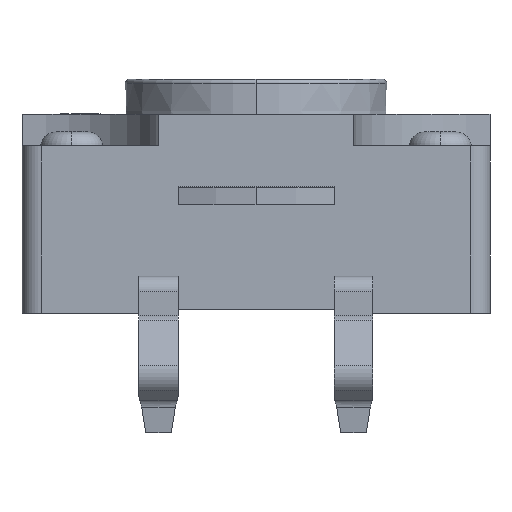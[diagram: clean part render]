
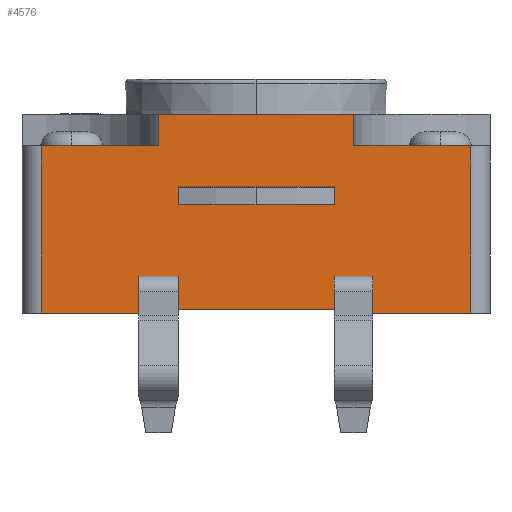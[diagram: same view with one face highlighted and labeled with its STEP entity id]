
A CAD part, left-side view. The second image highlights one B-rep face of the part: STEP entity #4576.
In plain terms, the highlighted planar face has unit normal (-1, 0, 0).
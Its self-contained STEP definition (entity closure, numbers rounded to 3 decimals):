
#578=DIRECTION('',(0.,1.,0.));
#579=VECTOR('',#578,3.);
#580=CARTESIAN_POINT('',(-75.489,40.27,-1.7));
#581=LINE('',#580,#579);
#582=DIRECTION('',(0.,-1.,0.));
#583=VECTOR('',#582,3.);
#584=CARTESIAN_POINT('',(-75.489,35.27,2.6));
#585=LINE('',#584,#583);
#586=DIRECTION('',(0.,-1.,0.));
#587=VECTOR('',#586,4.);
#588=CARTESIAN_POINT('',(-75.489,39.77,1.08));
#589=LINE('',#588,#587);
#590=DIRECTION('',(0.,0.,-1.));
#591=VECTOR('',#590,0.3);
#592=CARTESIAN_POINT('',(-75.489,34.77,
-0.75));
#593=LINE('',#592,#591);
#594=DIRECTION('',(0.,-1.,0.));
#595=VECTOR('',#594,1.);
#596=CARTESIAN_POINT('',(-75.489,35.77,
-0.75));
#597=LINE('',#596,#595);
#598=DIRECTION('',(0.,0.,1.));
#599=VECTOR('',#598,0.3);
#600=CARTESIAN_POINT('',(-75.489,35.77,-1.05));
#601=LINE('',#600,#599);
#602=DIRECTION('',(0.,-1.,0.));
#603=VECTOR('',#602,1.);
#604=CARTESIAN_POINT('',(-75.489,35.77,-1.05));
#605=LINE('',#604,#603);
#606=DIRECTION('',(0.,1.,0.));
#607=VECTOR('',#606,1.);
#608=CARTESIAN_POINT('',(-75.489,39.77,-1.05));
#609=LINE('',#608,#607);
#610=DIRECTION('',(0.,0.,-1.));
#611=VECTOR('',#610,0.3);
#612=CARTESIAN_POINT('',(-75.489,39.77,
-0.75));
#613=LINE('',#612,#611);
#614=DIRECTION('',(0.,1.,0.));
#615=VECTOR('',#614,1.);
#616=CARTESIAN_POINT('',(-75.489,39.77,
-0.75));
#617=LINE('',#616,#615);
#618=DIRECTION('',(0.,0.,-1.));
#619=VECTOR('',#618,0.3);
#620=CARTESIAN_POINT('',(-75.489,40.77,
-0.75));
#621=LINE('',#620,#619);
#626=DIRECTION('',(0.,0.,1.));
#627=VECTOR('',#626,3.25);
#628=CARTESIAN_POINT('',(-75.489,32.27,-1.7));
#629=LINE('',#628,#627);
#630=DIRECTION('',(0.,0.,1.));
#631=VECTOR('',#630,1.05);
#632=CARTESIAN_POINT('',(-75.489,32.27,1.55));
#633=LINE('',#632,#631);
#777=DIRECTION('',(0.,-1.,0.));
#778=VECTOR('',#777,4.);
#779=CARTESIAN_POINT('',(-75.489,39.77,1.55));
#780=LINE('',#779,#778);
#885=DIRECTION('',(0.,0.,-1.));
#886=VECTOR('',#885,0.47);
#887=CARTESIAN_POINT('',(-75.489,35.77,1.55));
#888=LINE('',#887,#886);
#917=DIRECTION('',(0.,0.,1.));
#918=VECTOR('',#917,0.47);
#919=CARTESIAN_POINT('',(-75.489,39.77,1.08));
#920=LINE('',#919,#918);
#986=DIRECTION('',(0.,0.,-1.));
#987=VECTOR('',#986,1.05);
#988=CARTESIAN_POINT('',(-75.489,43.27,2.6));
#989=LINE('',#988,#987);
#990=DIRECTION('',(0.,0.,-1.));
#991=VECTOR('',#990,3.25);
#992=CARTESIAN_POINT('',(-75.489,43.27,1.55));
#993=LINE('',#992,#991);
#1064=DIRECTION('',(0.,0.,1.));
#1065=VECTOR('',#1064,0.1);
#1066=CARTESIAN_POINT('',(-75.489,40.27,-1.7));
#1067=LINE('',#1066,#1065);
#1080=DIRECTION('',(0.,-1.,0.));
#1081=VECTOR('',#1080,5.);
#1082=CARTESIAN_POINT('',(-75.489,40.27,-1.6));
#1083=LINE('',#1082,#1081);
#1096=DIRECTION('',(0.,0.,-1.));
#1097=VECTOR('',#1096,0.1);
#1098=CARTESIAN_POINT('',(-75.489,35.27,-1.6));
#1099=LINE('',#1098,#1097);
#1104=DIRECTION('',(0.,-1.,0.));
#1105=VECTOR('',#1104,3.);
#1106=CARTESIAN_POINT('',(-75.489,35.27,-1.7));
#1107=LINE('',#1106,#1105);
#1175=DIRECTION('',(0.,1.,0.));
#1176=VECTOR('',#1175,3.);
#1177=CARTESIAN_POINT('',(-75.489,40.27,2.6));
#1178=LINE('',#1177,#1176);
#1194=DIRECTION('',(0.,0.,-1.));
#1195=VECTOR('',#1194,0.8);
#1196=CARTESIAN_POINT('',(-75.489,40.27,3.4));
#1197=LINE('',#1196,#1195);
#1198=DIRECTION('',(0.,1.,0.));
#1199=VECTOR('',#1198,5.);
#1200=CARTESIAN_POINT('',(-75.489,35.27,3.4));
#1201=LINE('',#1200,#1199);
#1571=DIRECTION('',(0.,0.,1.));
#1572=VECTOR('',#1571,0.8);
#1573=CARTESIAN_POINT('',(-75.489,35.27,2.6));
#1574=LINE('',#1573,#1572);
#3307=CARTESIAN_POINT('',(-75.489,35.27,2.6));
#3309=VERTEX_POINT('',#3307);
#3312=CARTESIAN_POINT('',(-75.489,32.27,2.6));
#3314=VERTEX_POINT('',#3312);
#3315=CARTESIAN_POINT('',(-75.489,40.27,2.6));
#3316=CARTESIAN_POINT('',(-75.489,43.27,2.6));
#3317=VERTEX_POINT('',#3315);
#3318=VERTEX_POINT('',#3316);
#3327=CARTESIAN_POINT('',(-75.489,35.27,3.4));
#3328=VERTEX_POINT('',#3327);
#3331=CARTESIAN_POINT('',(-75.489,40.27,3.4));
#3332=VERTEX_POINT('',#3331);
#3389=CARTESIAN_POINT('',(-75.489,43.27,-1.7));
#3390=VERTEX_POINT('',#3389);
#3391=CARTESIAN_POINT('',(-75.489,40.27,-1.7));
#3392=VERTEX_POINT('',#3391);
#3421=CARTESIAN_POINT('',(-75.489,39.77,1.08));
#3422=CARTESIAN_POINT('',(-75.489,35.77,1.08));
#3423=VERTEX_POINT('',#3421);
#3424=VERTEX_POINT('',#3422);
#3425=CARTESIAN_POINT('',(-75.489,40.27,-1.6));
#3426=CARTESIAN_POINT('',(-75.489,35.27,-1.6));
#3427=VERTEX_POINT('',#3425);
#3428=VERTEX_POINT('',#3426);
#3445=CARTESIAN_POINT('',(-75.489,35.27,-1.7));
#3446=VERTEX_POINT('',#3445);
#3447=CARTESIAN_POINT('',(-75.489,32.27,-1.7));
#3448=VERTEX_POINT('',#3447);
#3936=CARTESIAN_POINT('',(-75.489,39.77,1.55));
#3937=VERTEX_POINT('',#3936);
#3938=CARTESIAN_POINT('',(-75.489,35.77,1.55));
#3939=VERTEX_POINT('',#3938);
#3972=CARTESIAN_POINT('',(-75.489,43.27,1.55));
#3973=VERTEX_POINT('',#3972);
#3974=CARTESIAN_POINT('',(-75.489,32.27,1.55));
#3975=VERTEX_POINT('',#3974);
#3978=CARTESIAN_POINT('',(-75.489,34.77,
-0.75));
#3979=CARTESIAN_POINT('',(-75.489,34.77,-1.05));
#3980=VERTEX_POINT('',#3978);
#3981=VERTEX_POINT('',#3979);
#3982=CARTESIAN_POINT('',(-75.489,35.77,-1.05));
#3983=VERTEX_POINT('',#3982);
#3984=CARTESIAN_POINT('',(-75.489,35.77,
-0.75));
#3985=VERTEX_POINT('',#3984);
#3994=CARTESIAN_POINT('',(-75.489,39.77,-1.05));
#3995=CARTESIAN_POINT('',(-75.489,40.77,-1.05));
#3996=VERTEX_POINT('',#3994);
#3997=VERTEX_POINT('',#3995);
#3998=CARTESIAN_POINT('',(-75.489,40.77,
-0.75));
#3999=VERTEX_POINT('',#3998);
#4000=CARTESIAN_POINT('',(-75.489,39.77,
-0.75));
#4001=VERTEX_POINT('',#4000);
#4512=CARTESIAN_POINT('',(-75.489,37.77,2.475));
#4513=DIRECTION('',(1.,0.,0.));
#4514=DIRECTION('',(0.,-1.,0.));
#4515=AXIS2_PLACEMENT_3D('',#4512,#4513,#4514);
#4516=PLANE('',#4515);
#4518=ORIENTED_EDGE('',*,*,#4517,.F.);
#4520=ORIENTED_EDGE('',*,*,#4519,.F.);
#4522=ORIENTED_EDGE('',*,*,#4521,.F.);
#4524=ORIENTED_EDGE('',*,*,#4523,.F.);
#4526=ORIENTED_EDGE('',*,*,#4525,.F.);
#4528=ORIENTED_EDGE('',*,*,#4527,.F.);
#4530=ORIENTED_EDGE('',*,*,#4529,.T.);
#4532=ORIENTED_EDGE('',*,*,#4531,.F.);
#4534=ORIENTED_EDGE('',*,*,#4533,.F.);
#4536=ORIENTED_EDGE('',*,*,#4535,.F.);
#4538=ORIENTED_EDGE('',*,*,#4537,.F.);
#4540=ORIENTED_EDGE('',*,*,#4539,.F.);
#4542=ORIENTED_EDGE('',*,*,#4541,.F.);
#4544=ORIENTED_EDGE('',*,*,#4543,.T.);
#4545=EDGE_LOOP('',(#4518,#4520,#4522,#4524,#4526,#4528,#4530,#4532,#4534,#4536,
#4538,#4540,#4542,#4544));
#4546=FACE_OUTER_BOUND('',#4545,.F.);
#4548=ORIENTED_EDGE('',*,*,#4547,.F.);
#4550=ORIENTED_EDGE('',*,*,#4549,.F.);
#4552=ORIENTED_EDGE('',*,*,#4551,.T.);
#4554=ORIENTED_EDGE('',*,*,#4553,.F.);
#4555=EDGE_LOOP('',(#4548,#4550,#4552,#4554));
#4556=FACE_BOUND('',#4555,.F.);
#4558=ORIENTED_EDGE('',*,*,#4557,.F.);
#4560=ORIENTED_EDGE('',*,*,#4559,.F.);
#4562=ORIENTED_EDGE('',*,*,#4561,.F.);
#4564=ORIENTED_EDGE('',*,*,#4563,.T.);
#4565=EDGE_LOOP('',(#4558,#4560,#4562,#4564));
#4566=FACE_BOUND('',#4565,.F.);
#4568=ORIENTED_EDGE('',*,*,#4567,.F.);
#4569=ORIENTED_EDGE('',*,*,#4502,.F.);
#4571=ORIENTED_EDGE('',*,*,#4570,.T.);
#4573=ORIENTED_EDGE('',*,*,#4572,.T.);
#4574=EDGE_LOOP('',(#4568,#4569,#4571,#4573));
#4575=FACE_BOUND('',#4574,.F.);
#4502=EDGE_CURVE('',#4001,#3996,#613,.T.);
#4517=EDGE_CURVE('',#3975,#3314,#633,.T.);
#4519=EDGE_CURVE('',#3448,#3975,#629,.T.);
#4521=EDGE_CURVE('',#3446,#3448,#1107,.T.);
#4523=EDGE_CURVE('',#3428,#3446,#1099,.T.);
#4525=EDGE_CURVE('',#3427,#3428,#1083,.T.);
#4527=EDGE_CURVE('',#3392,#3427,#1067,.T.);
#4529=EDGE_CURVE('',#3392,#3390,#581,.T.);
#4531=EDGE_CURVE('',#3973,#3390,#993,.T.);
#4533=EDGE_CURVE('',#3318,#3973,#989,.T.);
#4535=EDGE_CURVE('',#3317,#3318,#1178,.T.);
#4537=EDGE_CURVE('',#3332,#3317,#1197,.T.);
#4539=EDGE_CURVE('',#3328,#3332,#1201,.T.);
#4541=EDGE_CURVE('',#3309,#3328,#1574,.T.);
#4543=EDGE_CURVE('',#3309,#3314,#585,.T.);
#4547=EDGE_CURVE('',#3937,#3939,#780,.T.);
#4549=EDGE_CURVE('',#3423,#3937,#920,.T.);
#4551=EDGE_CURVE('',#3423,#3424,#589,.T.);
#4553=EDGE_CURVE('',#3939,#3424,#888,.T.);
#4557=EDGE_CURVE('',#3980,#3981,#593,.T.);
#4559=EDGE_CURVE('',#3985,#3980,#597,.T.);
#4561=EDGE_CURVE('',#3983,#3985,#601,.T.);
#4563=EDGE_CURVE('',#3983,#3981,#605,.T.);
#4567=EDGE_CURVE('',#3996,#3997,#609,.T.);
#4570=EDGE_CURVE('',#4001,#3999,#617,.T.);
#4572=EDGE_CURVE('',#3999,#3997,#621,.T.);
#4576=ADVANCED_FACE('',(#4546,#4556,#4566,#4575),#4516,.F.);
